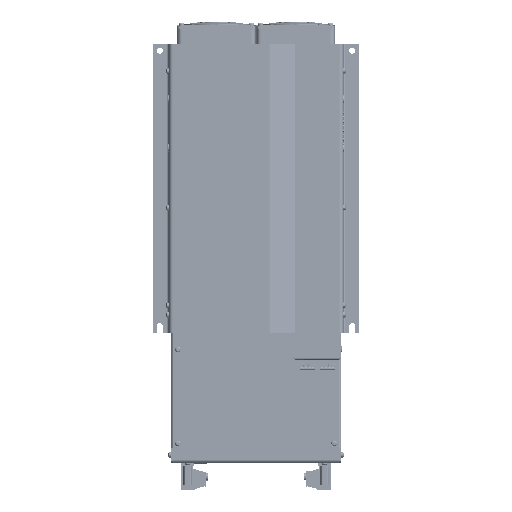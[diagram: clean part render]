
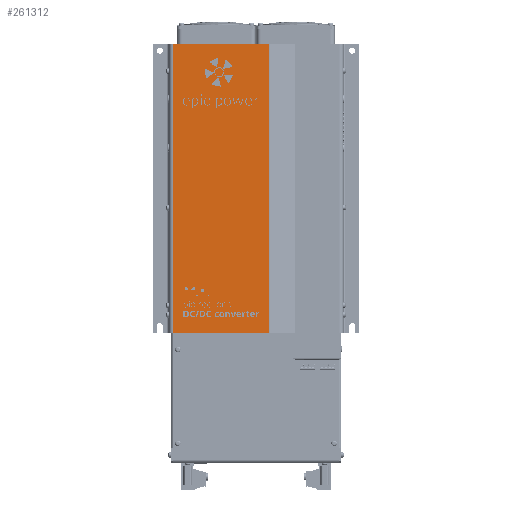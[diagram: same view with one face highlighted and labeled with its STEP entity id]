
A CAD part, front view. The second image highlights one B-rep face of the part: STEP entity #261312.
In plain terms, the highlighted planar face has unit normal (0, -1, 0) as drawn and (-1, 0, 0) by its records, which use the part's own axes.
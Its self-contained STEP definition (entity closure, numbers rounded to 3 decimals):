
#6450=LINE('',#429847,#38669);
#6458=LINE('',#429872,#38677);
#6467=LINE('',#429906,#38686);
#6468=LINE('',#429907,#38687);
#38669=VECTOR('',#358470,1000.);
#38677=VECTOR('',#358492,1000.);
#38686=VECTOR('',#358521,1000.);
#38687=VECTOR('',#358522,1000.);
#71085=ORIENTED_EDGE('',*,*,#147660,.T.);
#71086=ORIENTED_EDGE('',*,*,#147678,.T.);
#71087=ORIENTED_EDGE('',*,*,#147647,.F.);
#71088=ORIENTED_EDGE('',*,*,#147679,.T.);
#147647=EDGE_CURVE('',#186238,#186239,#6450,.T.);
#147660=EDGE_CURVE('',#186249,#186248,#6458,.T.);
#147678=EDGE_CURVE('',#186248,#186239,#6467,.T.);
#147679=EDGE_CURVE('',#186238,#186249,#6468,.T.);
#186238=VERTEX_POINT('',#429846);
#186239=VERTEX_POINT('',#429848);
#186248=VERTEX_POINT('',#429871);
#186249=VERTEX_POINT('',#429873);
#216598=EDGE_LOOP('',(#71085,#71086,#71087,#71088));
#233300=FACE_BOUND('',#216598,.T.);
#249915=PLANE('',#338670);
#261312=ADVANCED_FACE('',(#233300),#249915,.F.);
#338670=AXIS2_PLACEMENT_3D('',#429905,#358519,#358520);
#358470=DIRECTION('',(0.,1.,0.));
#358492=DIRECTION('',(0.,1.,0.));
#358519=DIRECTION('',(1.,0.,0.));
#358520=DIRECTION('',(0.,1.,0.));
#358521=DIRECTION('',(0.,0.,-1.));
#358522=DIRECTION('',(0.,0.,1.));
#429846=CARTESIAN_POINT('',(-86.498,74.173,-148.));
#429847=CARTESIAN_POINT('',(-86.498,73.73,-148.));
#429848=CARTESIAN_POINT('',(-86.498,173.,-148.));
#429871=CARTESIAN_POINT('',(-86.498,173.,148.));
#429872=CARTESIAN_POINT('',(-86.498,73.73,148.));
#429873=CARTESIAN_POINT('',(-86.498,74.173,148.));
#429905=CARTESIAN_POINT('',(-86.498,73.73,-148.));
#429906=CARTESIAN_POINT('',(-86.498,173.,148.));
#429907=CARTESIAN_POINT('',(-86.498,74.173,-148.));
